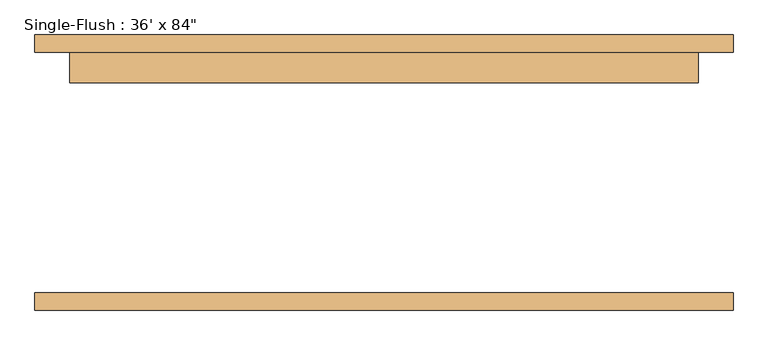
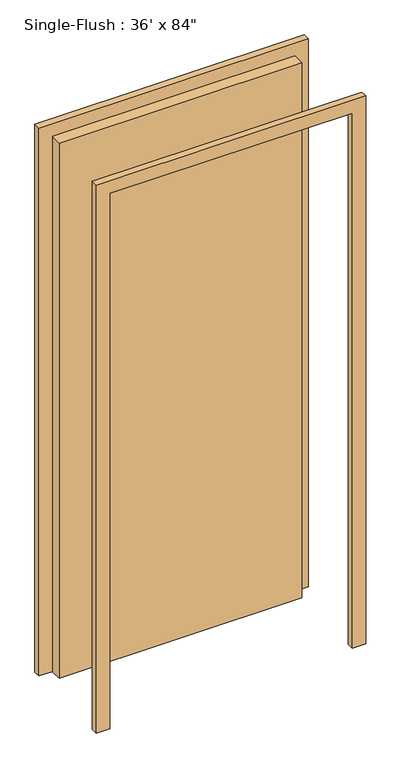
"""IFC4 building model written with IfcOpenShell, lengths in millimetres: door geometry."""

from ifc_helpers import new_model, si_unit, frame, origin, origin_with_axes, place, context, project, spatial, polyline, outline, extrude, source, transform, mapped, element, save


def door_ef2e73a9(model_context):
    return source(origin(), model_context, "Body", "SweptSolid", [
        extrude(outline(polyline([(2184.4, -508.0), (0.0, -508.0), (0.0, -457.2), (2133.6, -457.2), (2133.6, 457.2), (0.0, 457.2), (0.0, 508.0), (2184.4, 508.0), (2184.4, -508.0)])), frame((0.0, 175.0, 0.0), z_axis=(0.0, 1.0, 0.0), x_axis=(0.0, 0.0, 1.0)), (0.0, 0.0, 1.0), 25.4),
        extrude(outline(polyline([(2184.4, 508.0), (2184.4, -508.0), (0.0, -508.0), (0.0, -457.2), (2133.6, -457.2), (2133.6, 457.2), (0.0, 457.2), (0.0, 508.0), (2184.4, 508.0)])), frame((0.0, -200.4, 0.0), z_axis=(0.0, 1.0, 0.0), x_axis=(0.0, 0.0, 1.0)), (0.0, 0.0, 1.0), 25.4),
        extrude(outline(polyline([(457.2, 130.55), (-457.2, 130.55), (-457.2, 175.0), (457.2, 175.0), (457.2, 130.55)])), origin_with_axes(), (0.0, 0.0, 1.0), 2133.6),
    ])


if __name__ == "__main__":
    model = new_model("IFC4")
    model_context = context("Model", 3, world=origin())
    ifc_project = project(units=[si_unit("LENGTHUNIT", "METRE", prefix="MILLI")], contexts=[model_context])
    site = spatial("IfcSite", under=ifc_project)
    building = spatial("IfcBuilding", under=site)
    placement = place(None, origin())
    door_shape = door_ef2e73a9(model_context)
    element("IfcDoor", 1, ObjectType="Single-Flush : 36' x 84\"", at=placement, inside=building, context=model_context, shape_type="MappedRepresentation", body=[
        mapped(door_shape, transform((0.0, 0.0, 0.0), x_axis=(1.0, 0.0, 0.0), y_axis=(0.0, 1.0, 0.0), z_axis=(0.0, 0.0, 1.0))),
    ])
    save(model, "model.ifc")
